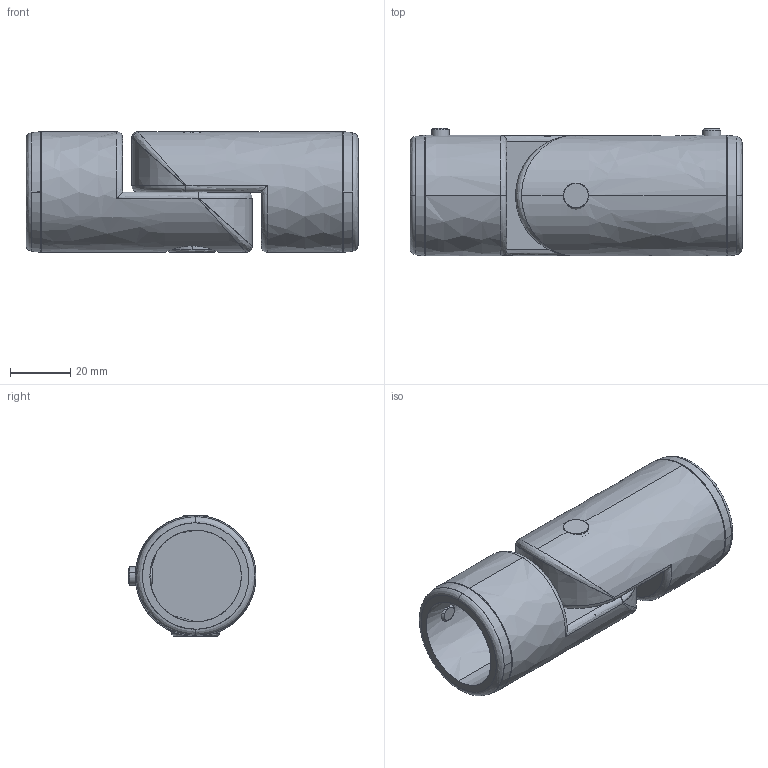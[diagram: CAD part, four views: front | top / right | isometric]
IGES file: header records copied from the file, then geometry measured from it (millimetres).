
Start section: SolidWorks IGES file using analytic representation for surfaces
Global section: file name: C:\Users\Gerard\OneDrive - Tecnodin, S.L\Escritorio\30 mm Verbinder im step. Format\31000410029.IGS; native system: SolidWorks 2016; preprocessor: SolidWorks 2016; author: Gerard; date: 240902.113842; units: millimetre
Bounding box: 110 x 42.4 x 40 mm (x, y, z)
Surface area: 28646.3 mm2 (no closed solid volume)
Topology: 0 solids, 0 shells, 112 faces, 1857 edges, 1851 vertices
Faces by surface type: bspline 58, revolution 54
